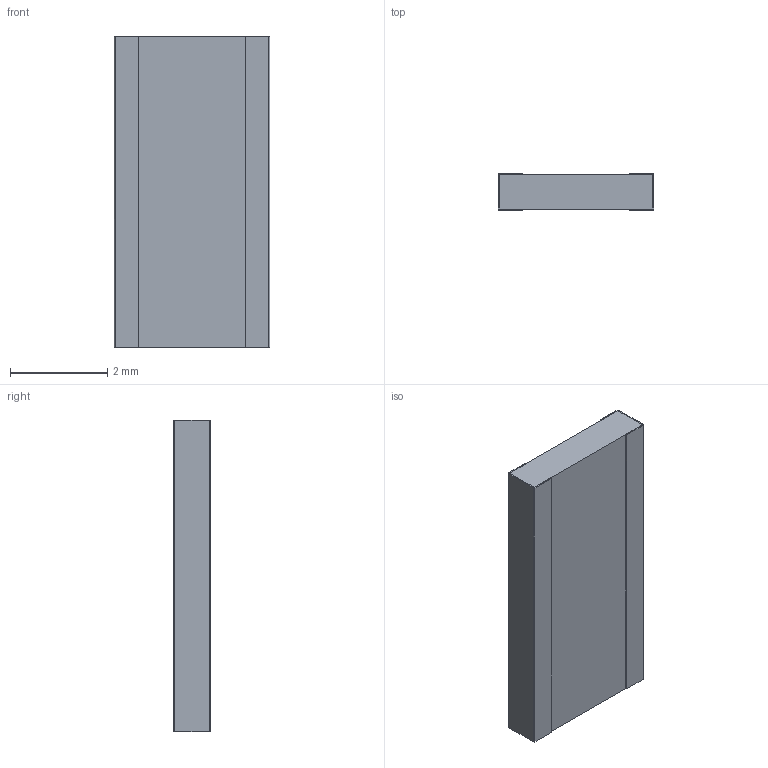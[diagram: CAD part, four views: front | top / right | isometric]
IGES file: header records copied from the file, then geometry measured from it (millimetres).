
Global section: file name: THJP1225A; native system: Autodesk Inventor LT ; preprocessor: unknown; author: Neil; date: 20191203.161951; units: inch
Bounding box: 3.2 x 0.76 x 6.4 mm (x, y, z)
Volume: 14.9 mm3; surface area: 98.7 mm2
Topology: 3 solids, 3 shells, 30 faces, 72 edges, 48 vertices
Faces by surface type: bspline 30
